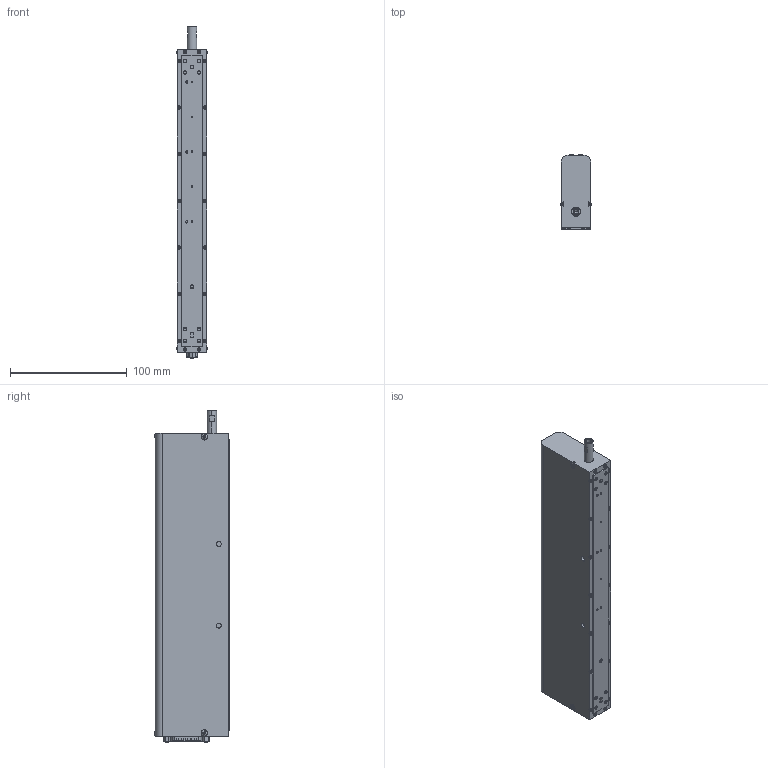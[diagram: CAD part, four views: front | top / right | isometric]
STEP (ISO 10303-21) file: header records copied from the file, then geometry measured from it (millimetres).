
FILE_DESCRIPTION (( 'STEP AP203' ), '1' );
FILE_NAME ('LDL25 3TH GENERATION-XXX-YY-6F.STEP', '2021-08-31T17:55:58', ( '' ), ( '' ), 'SwSTEP 2.0', 'SolidWorks 2020', '' );
FILE_SCHEMA (( 'CONFIG_CONTROL_DESIGN' ));
Length unit declared in the file: millimetre
Products named in the file (1): LDL25 3TH GENERATION-XXX-YY-6F
Bounding box: 25.86 x 64.1 x 284.76 mm (x, y, z)
Volume: 413826.7 mm3; surface area: 51415.4 mm2
Topology: 1 solids, 41 shells, 1569 faces, 4111 edges, 2645 vertices
Faces by surface type: plane 844, cylinder 463, cone 150, torus 64, bspline 40, sphere 8
Entity records: 54726 total; most frequent: CARTESIAN_POINT 15926, ORIENTED_EDGE 8162, DIRECTION 8011, EDGE_CURVE 4081, AXIS2_PLACEMENT_3D 2788, VERTEX_POINT 2645, VECTOR 2435, LINE 2435
